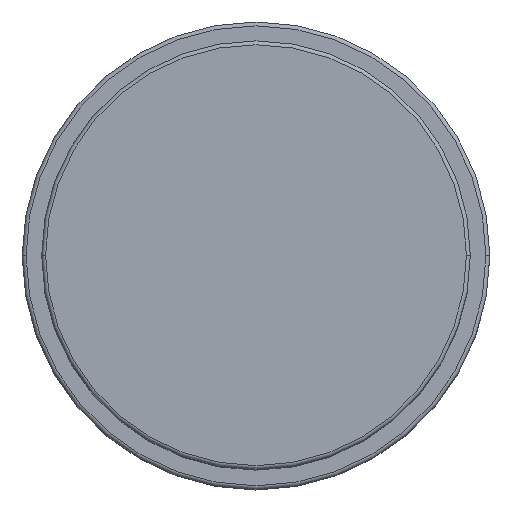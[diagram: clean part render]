
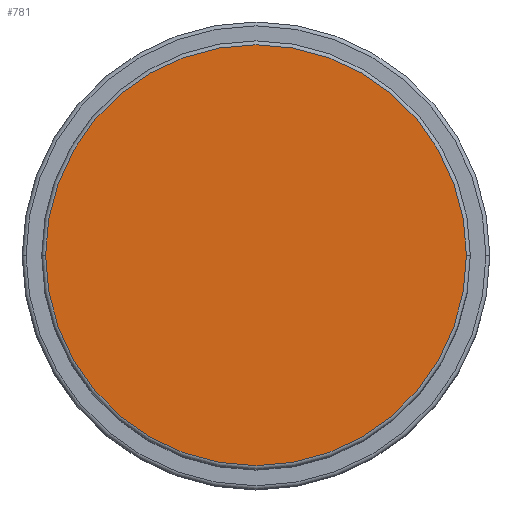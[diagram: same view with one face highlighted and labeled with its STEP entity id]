
A CAD part, top view. The second image highlights one B-rep face of the part: STEP entity #781.
In plain terms, the highlighted planar face has unit normal (0, 0, 1).
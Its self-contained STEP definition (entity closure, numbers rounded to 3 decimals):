
#5 = DIRECTION ( 'NONE',  ( 0., 0., 1. ) ) ;
#256 = DIRECTION ( 'NONE',  ( 0., 0., 1. ) ) ;
#325 = VERTEX_POINT ( 'NONE', #615 ) ;
#430 = CIRCLE ( 'NONE', #928, 27. ) ;
#447 = CARTESIAN_POINT ( 'NONE',  ( 0., 0., 71. ) ) ;
#515 = EDGE_CURVE ( 'NONE', #325, #750, #1241, .T. ) ;
#615 = CARTESIAN_POINT ( 'NONE',  ( 27., 0., 71. ) ) ;
#729 = AXIS2_PLACEMENT_3D ( 'NONE', #1517, #5, #1525 ) ;
#750 = VERTEX_POINT ( 'NONE', #1582 ) ;
#781 = ADVANCED_FACE ( 'NONE', ( #1380 ), #1217, .T. ) ;
#928 = AXIS2_PLACEMENT_3D ( 'NONE', #1268, #256, #1034 ) ;
#1029 = AXIS2_PLACEMENT_3D ( 'NONE', #447, #1476, #1347 ) ;
#1034 = DIRECTION ( 'NONE',  ( 1., 0., 0. ) ) ;
#1217 = PLANE ( 'NONE',  #1029 ) ;
#1229 = EDGE_CURVE ( 'NONE', #750, #325, #430, .T. ) ;
#1241 = CIRCLE ( 'NONE', #729, 27. ) ;
#1268 = CARTESIAN_POINT ( 'NONE',  ( 0., 0., 71. ) ) ;
#1346 = ORIENTED_EDGE ( 'NONE', *, *, #515, .T. ) ;
#1347 = DIRECTION ( 'NONE',  ( 1., 0., 0. ) ) ;
#1380 = FACE_OUTER_BOUND ( 'NONE', #1548, .T. ) ;
#1476 = DIRECTION ( 'NONE',  ( 0., 0., 1. ) ) ;
#1517 = CARTESIAN_POINT ( 'NONE',  ( 0., 0., 71. ) ) ;
#1525 = DIRECTION ( 'NONE',  ( 1., 0., 0. ) ) ;
#1548 = EDGE_LOOP ( 'NONE', ( #1346, #1558 ) ) ;
#1558 = ORIENTED_EDGE ( 'NONE', *, *, #1229, .T. ) ;
#1582 = CARTESIAN_POINT ( 'NONE',  ( -27., 0., 71. ) ) ;
